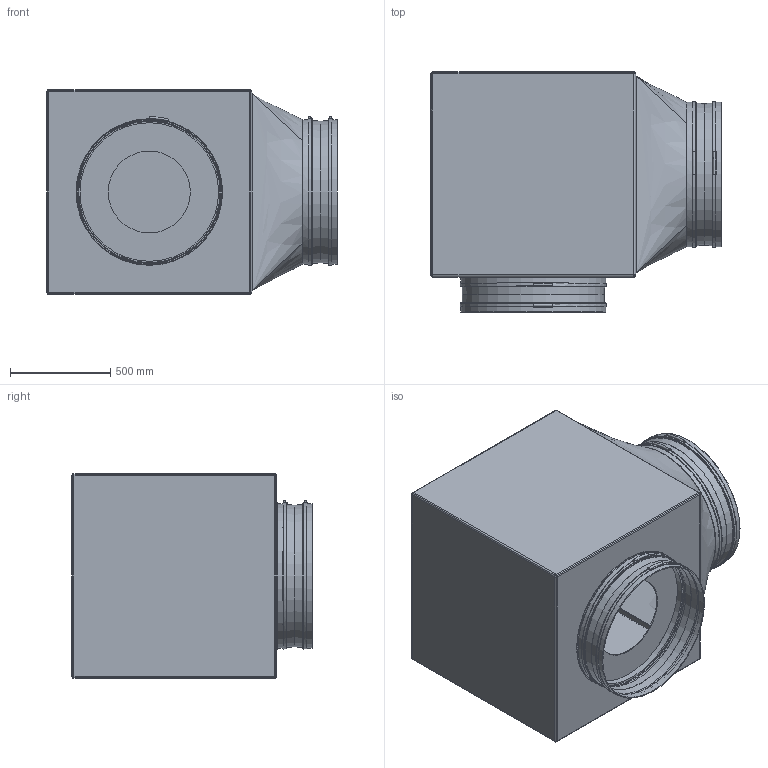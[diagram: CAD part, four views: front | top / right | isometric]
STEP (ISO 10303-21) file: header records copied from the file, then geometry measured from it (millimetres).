
FILE_DESCRIPTION(/* description */ (''),/* implementation_level */ '2;1');
FILE_NAME(/* name */ 'Z:\Output\GBD 710_6_6_Radial-05525-004.stp',/* time_stamp */ '2017-05-09T00:02:50+02:00',/* author */ ('jayeshpanchal'),/* organization */ (''),/* preprocessor_version */ 'ST-DEVELOPER v16.5',/* originating_system */ 'Autodesk Inventor 2017',/* authorisation */ '');
FILE_SCHEMA (('AUTOMOTIVE_DESIGN { 1 0 10303 214 3 1 1 }'));
Length unit declared in the file: millimetre
Products named in the file (1): GB-2
Bounding box: 1445 x 1195 x 1020 mm (x, y, z)
Volume: 33747315 mm3; surface area: 15089884.1 mm2
Topology: 9 solids, 10 shells, 139 faces, 266 edges, 160 vertices
Faces by surface type: plane 55, cylinder 48, bspline 16, cone 8, sphere 8, torus 4
Full cylindrical faces by diameter (mm): 408 x1, 690 x1, 700 x1, 710 x2, 711 x8, 720 x2, 721 x8, 727 x4, 730 x1
Entity records: 4003 total; most frequent: CARTESIAN_POINT 1272, DIRECTION 584, ORIENTED_EDGE 466, AXIS2_PLACEMENT_3D 245, EDGE_CURVE 227, EDGE_LOOP 206, VERTEX_POINT 157, FACE_OUTER_BOUND 139
